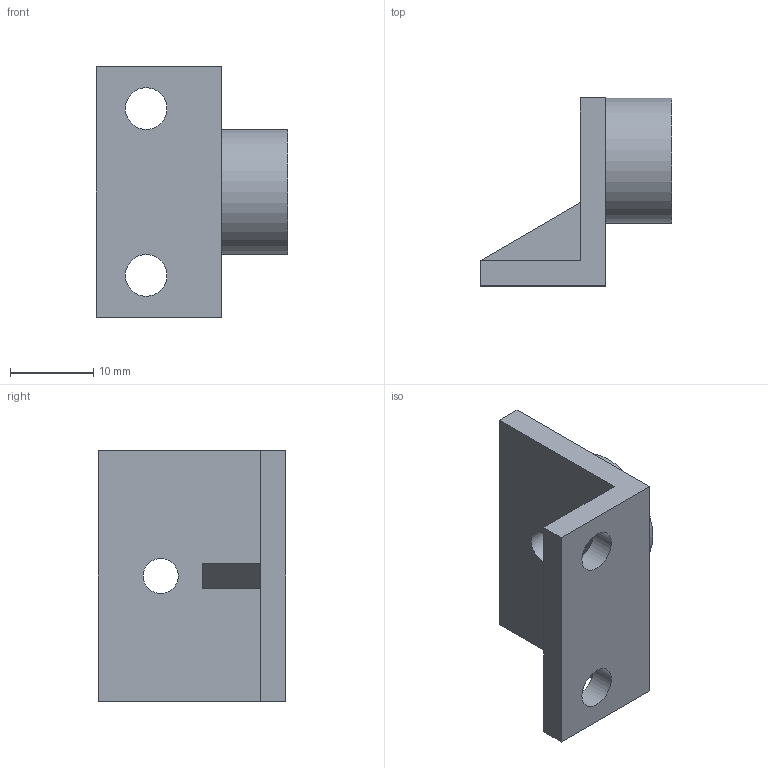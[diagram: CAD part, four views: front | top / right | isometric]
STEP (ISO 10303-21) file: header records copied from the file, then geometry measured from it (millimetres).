
FILE_DESCRIPTION (( 'STEP AP214' ), '1' );
FILE_NAME ('L15136.step', '2024-12-03T16:18:30', ( '' ), ( '' ), 'SwSTEP 2.0', 'SolidWorks 2023', '' );
FILE_SCHEMA (( 'AUTOMOTIVE_DESIGN' ));
Length unit declared in the file: millimetre
Products named in the file (1): L15136
Bounding box: 23 x 22.5 x 30 mm (x, y, z)
Volume: 4374.5 mm3; surface area: 3035.8 mm2
Topology: 1 solids, 1 shells, 17 faces, 45 edges, 30 vertices
Faces by surface type: plane 13, cylinder 4
Full cylindrical faces by diameter (mm): 4.2 x1, 5 x2, 15 x1
Entity records: 506 total; most frequent: DIRECTION 81, CARTESIAN_POINT 81, ORIENTED_EDGE 74, EDGE_CURVE 37, LINE 29, VECTOR 29, EDGE_LOOP 27, AXIS2_PLACEMENT_3D 26
